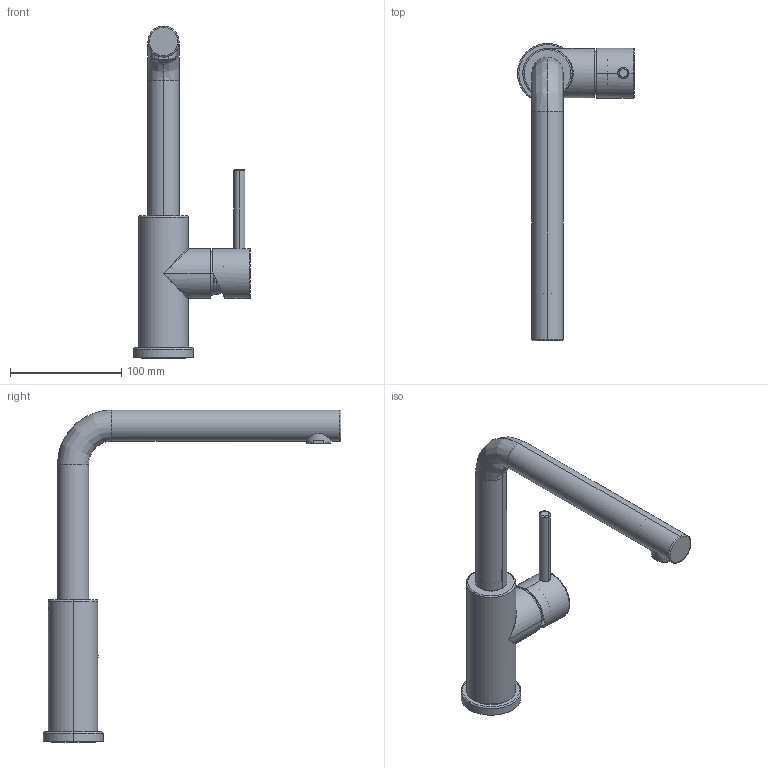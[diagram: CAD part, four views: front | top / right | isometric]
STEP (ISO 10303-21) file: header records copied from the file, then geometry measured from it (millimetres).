
FILE_DESCRIPTION(/* description */ (''),/* implementation_level */ '2;1');
FILE_NAME(/* name */ '3D001_Taps_Smart-Glenda_Swivel',/* time_stamp */ '2024-03-12T14:53:36+01:00',/* author */ (''),/* organization */ (''),/* preprocessor_version */ 'ST-DEVELOPER v19.2',/* originating_system */ 'Rhino 8.3',/* authorisation */ '');
FILE_SCHEMA (('CONFIG_CONTROL_DESIGN'));
Length unit declared in the file: millimetre
Products named in the file (13): Document; V249SW; GT2122L-02; 432305010; Blocco 01; GT2122-04; LP2902-09; GT2122B-01; V103SW; V101; V102; OXQ-370250-NJ; GT2122B-05
Bounding box: 105.3 x 268 x 298.7 mm (x, y, z)
Volume: 248020.6 mm3; surface area: 140664.1 mm2
Topology: 20 solids, 2534 shells, 5988 faces, 21269 edges, 13799 vertices
Faces by surface type: plane 5551, bspline 219, cylinder 218
Entity records: 211336 total; most frequent: CARTESIAN_POINT 83634, ORIENTED_EDGE 26806, EDGE_CURVE 21251, B_SPLINE_CURVE_WITH_KNOTS 20531, VERTEX_POINT 13798, DIRECTION 7248, AXIS2_PLACEMENT_3D 6508, EDGE_LOOP 6092
